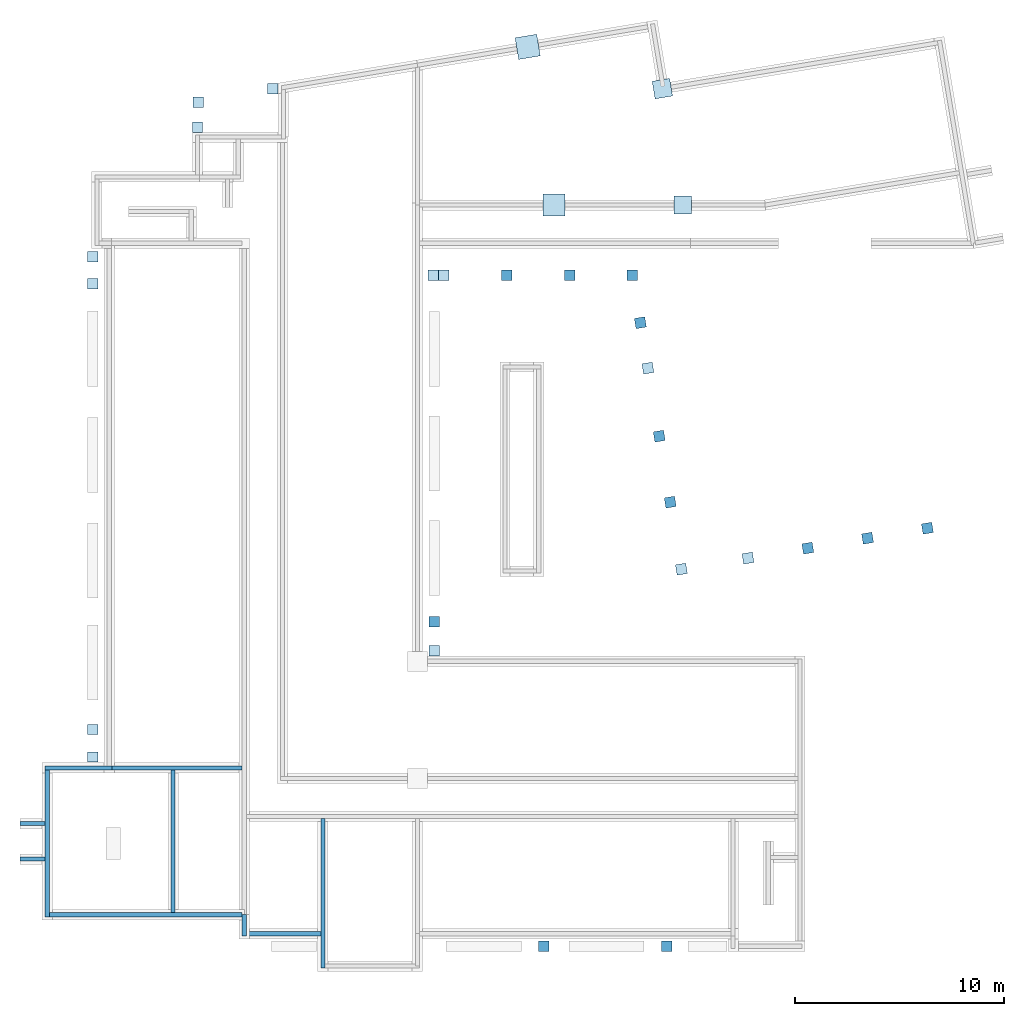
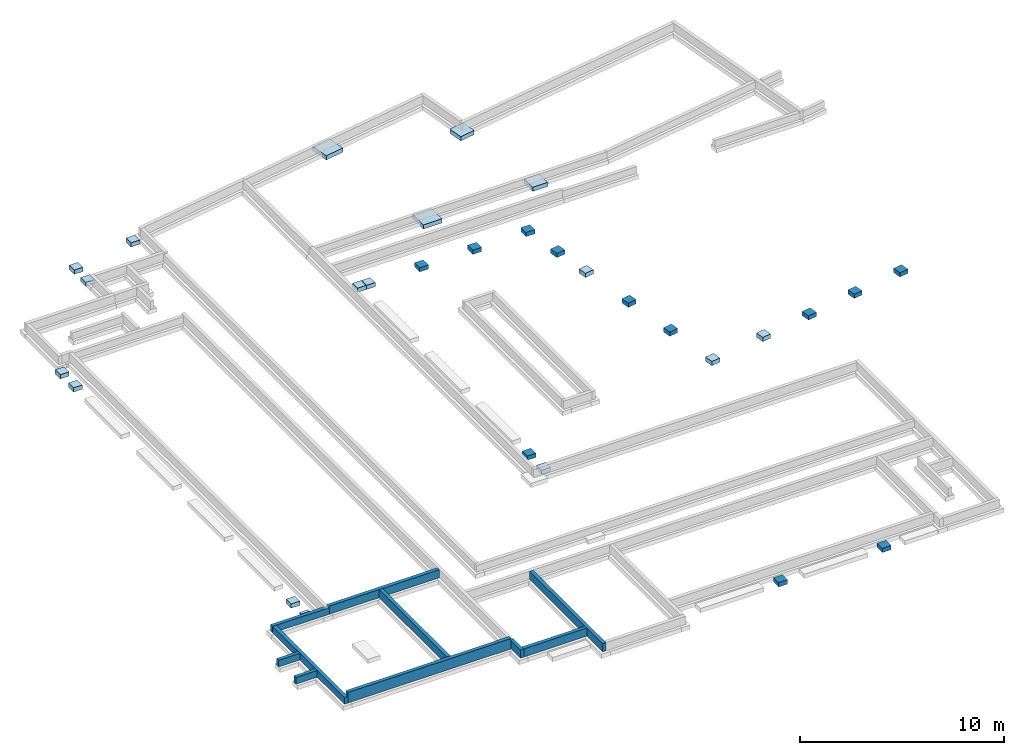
# One storey, part 3 of 5: 30 slabs, 10 walls.
"""IFC4 building model written with IfcOpenShell, lengths in metres."""

import ifcopenshell
import ifcopenshell.guid

model = None  # the IFC model being written
_history = None  # IfcOwnerHistory: only IFC2X3 demands one
_inside = {}  # id of a spatial element -> (the spatial element, [elements in it])
_under = {}  # id of a project, library or spatial element -> (it, [spatial elements below it])
_declared = {}  # id of a project -> (the project, [libraries it declares])
_typed = {}  # id of a type object -> (the type object, [elements of that type])
_made_of = {}  # id of a material, layer set ... -> (it, [elements and type objects made of it])


def new_model(schema):
    """Start an empty IFC model of exactly this schema.

    Asked for "IFC4X3", IfcOpenShell would pick the latest addendum, in which some entities
    have other attributes; the version numbers below select the first issue.
    IFC2X3 requires an IfcOwnerHistory on every rooted entity: one is made here for all.
    """
    global model, _history
    if schema == "IFC4X3":
        model = ifcopenshell.file(schema_version=(4, 3, 0, 0))
    else:
        model = ifcopenshell.file(schema=schema)
    _inside.clear()
    _under.clear()
    _declared.clear()
    _typed.clear()
    _made_of.clear()
    _history = None
    if model.schema == "IFC2X3":
        org = make("IfcOrganization", Name="unknown")
        user = make(
            "IfcPersonAndOrganization",
            ThePerson=make("IfcPerson", FamilyName="unknown"),
            TheOrganization=org,
        )
        app = make(
            "IfcApplication",
            ApplicationDeveloper=org,
            Version="unknown",
            ApplicationFullName="unknown",
            ApplicationIdentifier="unknown",
        )
        _history = make(
            "IfcOwnerHistory",
            OwningUser=user,
            OwningApplication=app,
            ChangeAction="ADDED",
            CreationDate=0,
        )
    return model


def make(cls, **values):
    """One entity of the class cls with the attributes given. An attribute that is None is left unset."""
    return model.create_entity(
        cls, **{name: value for name, value in values.items() if value is not None}
    )


def entity(cls, *values):
    """Any entity or typed value of the class cls, its attributes in the order of the schema. None: left unset."""
    e = model.create_entity(cls)
    for i, value in enumerate(values):
        if value is not None:
            e[i] = value
    return e


def rooted(cls, **values):
    """An entity with a GlobalId (a new one), such as an element, a storey or a relation."""
    return make(cls, GlobalId=ifcopenshell.guid.new(), OwnerHistory=_history, **values)


def si_unit(unit_type, name, prefix=None):
    """IfcSIUnit, for example si_unit("LENGTHUNIT", "METRE", prefix="MILLI")."""
    return make("IfcSIUnit", UnitType=unit_type, Prefix=prefix, Name=name)


def converted_unit(unit_type, name, factor, base, dimensions=None, offset=None):
    """IfcConversionBasedUnit, such as the inch: factor (a typed value) times the base unit."""
    return make(
        "IfcConversionBasedUnit"
        if offset is None
        else "IfcConversionBasedUnitWithOffset",
        ConversionOffset=offset,
        Dimensions=None
        if dimensions is None
        else entity("IfcDimensionalExponents", *dimensions),
        UnitType=unit_type,
        Name=name,
        ConversionFactor=make(
            "IfcMeasureWithUnit", ValueComponent=factor, UnitComponent=base
        ),
    )


def derived_unit(unit_type, elements):
    """IfcDerivedUnit: a product of units, each with its exponent."""
    return make(
        "IfcDerivedUnit",
        Elements=[
            make("IfcDerivedUnitElement", Unit=unit, Exponent=power)
            for unit, power in elements
        ],
        UnitType=unit_type,
    )


def assignment(units):
    """IfcUnitAssignment: the units of a project."""
    return None if units is None else make("IfcUnitAssignment", Units=units)


def point(xyz):
    """IfcCartesianPoint."""
    return None if xyz is None else make("IfcCartesianPoint", Coordinates=xyz)


def direction(xyz):
    """IfcDirection."""
    return None if xyz is None else make("IfcDirection", DirectionRatios=xyz)


def frame(location, z_axis=None, x_axis=None):
    """IfcAxis2Placement3D, a coordinate frame: its origin and axes. An axis left out is left unset."""
    return make(
        "IfcAxis2Placement3D",
        Location=point(location),
        Axis=direction(z_axis),
        RefDirection=direction(x_axis),
    )


def origin():
    """The frame at (0, 0, 0) with its axes left unset."""
    return frame((0.0, 0.0, 0.0))


def place(relative_to, where):
    """IfcLocalPlacement: puts the frame where relative to a parent placement (None: the world)."""
    return make(
        "IfcLocalPlacement", PlacementRelTo=relative_to, RelativePlacement=where
    )


def context(
    kind, dimensions, precision=None, world=None, true_north=None, identifier=None
):
    """IfcGeometricRepresentationContext, for example the 3D "Model" context."""
    return make(
        "IfcGeometricRepresentationContext",
        ContextIdentifier=identifier,
        ContextType=kind,
        CoordinateSpaceDimension=dimensions,
        Precision=precision,
        WorldCoordinateSystem=world,
        TrueNorth=true_north,
    )


def subcontext(parent, identifier, kind, view, scale=None):
    """IfcGeometricRepresentationSubContext, for example "Body" below "Model"."""
    return make(
        "IfcGeometricRepresentationSubContext",
        ContextIdentifier=identifier,
        ContextType=kind,
        ParentContext=parent,
        TargetScale=scale,
        TargetView=view,
    )


def project(units=None, contexts=None):
    """IfcProject with its units and contexts."""
    return rooted(
        "IfcProject",
        Name="project",
        RepresentationContexts=contexts,
        UnitsInContext=assignment(units),
    )


def spatial(cls, under=None, at=None, **own):
    """A site, building, storey or space (cls), placed at a placement, below another one or the project."""
    s = rooted(cls, ObjectPlacement=at, **own)
    if under is not None:
        _under.setdefault(under.id(), (under, []))[1].append(s)
    return s


def point_list(points):
    """IfcCartesianPointList2D or 3D."""
    cls = (
        "IfcCartesianPointList2D" if len(points[0]) == 2 else "IfcCartesianPointList3D"
    )
    return make(cls, CoordList=points)


def indexed_curve(points, segments=None, self_intersect=None):
    """IfcIndexedPolyCurve: lines and arcs through numbered points (the first is 1)."""
    return make(
        "IfcIndexedPolyCurve",
        Points=point_list(points),
        Segments=segments,
        SelfIntersect=self_intersect,
    )


def outline(outer, holes=None, kind="AREA"):
    """IfcArbitraryClosedProfileDef: a profile drawn as a closed curve; with holes, ...WithVoids."""
    if holes is None:
        return make("IfcArbitraryClosedProfileDef", ProfileType=kind, OuterCurve=outer)
    return make(
        "IfcArbitraryProfileDefWithVoids",
        ProfileType=kind,
        OuterCurve=outer,
        InnerCurves=holes,
    )


def extrude(swept, where, along, depth):
    """IfcExtrudedAreaSolid: the profile swept, set in the frame where, extruded along a direction by depth."""
    return make(
        "IfcExtrudedAreaSolid",
        SweptArea=swept,
        Position=where,
        ExtrudedDirection=direction(along),
        Depth=depth,
    )


def shape(context_of_items, identifier, shape_type, items):
    """IfcShapeRepresentation: the items that make up one representation, for example the "Body"."""
    return make(
        "IfcShapeRepresentation",
        ContextOfItems=context_of_items,
        RepresentationIdentifier=identifier,
        RepresentationType=shape_type,
        Items=items,
    )


def material(Name=None, Category=None):
    """IfcMaterial."""
    return make("IfcMaterial", Name=Name, Category=Category)


def made_of(thing, what):
    """Note that an element or type object is made of a material, layer set ...; save() writes the relation."""
    if what is not None:
        _made_of.setdefault(what.id(), (what, []))[1].append(thing)
    return thing


def type_object(cls, material=None, **own):
    """A type object (cls), such as IfcWallType, which elements share."""
    return made_of(rooted(cls, **own), material)


def element(
    cls,
    number,
    at=None,
    inside=None,
    cuts=None,
    type_object=None,
    material=None,
    context=None,
    identifier="Body",
    shape_type=None,
    held_by="IfcProductDefinitionShape",
    body=None,
    shapes=None,
    **own,
):
    """One element of the class cls, such as IfcWall. Its Tag is "e" and its number.

    at: its placement. inside: the storey or other place that contains it. cuts: it is an
    opening in that element (IfcRelVoidsElement). A single representation is given by context,
    identifier, shape_type and body (its items); several are given by shapes. held_by: the class
    of the entity that holds the representations. save() writes the other relations.
    """
    e = rooted(cls, Tag="e%d" % number, ObjectPlacement=at, **own)
    if body is not None:
        shapes = [shape(context, identifier, shape_type, body)]
    if shapes is not None:
        e.Representation = make(held_by, Representations=shapes)
    if inside is not None:
        _inside.setdefault(inside.id(), (inside, []))[1].append(e)
    if cuts is not None:
        rooted(
            "IfcRelVoidsElement", RelatingBuildingElement=cuts, RelatedOpeningElement=e
        )
    if type_object is not None:
        _typed.setdefault(type_object.id(), (type_object, []))[1].append(e)
    return made_of(e, material)


def aggregate(whole, parts):
    """IfcRelAggregates: a whole, such as a stair, and the parts it consists of."""
    return rooted("IfcRelAggregates", RelatingObject=whole, RelatedObjects=parts)


def save(model, path):
    """Write the relations noted so far, then the file.

    IfcRelAggregates (storeys below a building ...), IfcRelContainedInSpatialStructure (elements
    in a storey), IfcRelDefinesByType, IfcRelAssociatesMaterial and IfcRelDeclares: one each for
    every whole, place, type object, material and project.
    """
    for whole, parts in _under.values():
        aggregate(whole, parts)
    for where, things in _inside.values():
        rooted(
            "IfcRelContainedInSpatialStructure",
            RelatedElements=things,
            RelatingStructure=where,
        )
    for kind, things in _typed.values():
        rooted("IfcRelDefinesByType", RelatedObjects=things, RelatingType=kind)
    for what, things in _made_of.values():
        rooted("IfcRelAssociatesMaterial", RelatedObjects=things, RelatingMaterial=what)
    for by, libraries in _declared.values():
        rooted("IfcRelDeclares", RelatingContext=by, RelatedDefinitions=libraries)
    model.write(path)


model = new_model("IFC4")

# Units and contexts
model_context = context("Model", 3, precision=1e-05, world=origin(), true_north=direction((6.123031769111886e-17, 1.0)))
body_context = subcontext(model_context, "Body", "Model", "MODEL_VIEW")
ifc_project = project(units=[si_unit("LENGTHUNIT", "METRE"), si_unit("AREAUNIT", "SQUARE_METRE"), si_unit("VOLUMEUNIT", "CUBIC_METRE"), converted_unit("PLANEANGLEUNIT", "DEGREE", entity("IfcRatioMeasure", 0.017453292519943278), si_unit("PLANEANGLEUNIT", "RADIAN"), dimensions=[0, 0, 0, 0, 0, 0, 0]), si_unit("MASSUNIT", "GRAM", prefix="KILO"), derived_unit("MASSDENSITYUNIT", [(si_unit("MASSUNIT", "GRAM", prefix="KILO"), 1), (si_unit("LENGTHUNIT", "METRE"), -3)]), derived_unit("MOMENTOFINERTIAUNIT", [(si_unit("LENGTHUNIT", "METRE"), 4)]), si_unit("TIMEUNIT", "SECOND"), si_unit("FREQUENCYUNIT", "HERTZ"), si_unit("THERMODYNAMICTEMPERATUREUNIT", "DEGREE_CELSIUS"), derived_unit("THERMALTRANSMITTANCEUNIT", [(si_unit("MASSUNIT", "GRAM", prefix="KILO"), 1), (si_unit("THERMODYNAMICTEMPERATUREUNIT", "KELVIN"), -1), (si_unit("TIMEUNIT", "SECOND"), -3)]), derived_unit("VOLUMETRICFLOWRATEUNIT", [(si_unit("LENGTHUNIT", "METRE"), 3), (si_unit("TIMEUNIT", "SECOND"), -1)]), derived_unit("MASSFLOWRATEUNIT", [(si_unit("MASSUNIT", "GRAM", prefix="KILO"), 1), (si_unit("TIMEUNIT", "SECOND"), -1)]), derived_unit("ROTATIONALFREQUENCYUNIT", [(si_unit("TIMEUNIT", "SECOND"), -1)]), si_unit("ELECTRICCURRENTUNIT", "AMPERE"), si_unit("ELECTRICVOLTAGEUNIT", "VOLT"), si_unit("POWERUNIT", "WATT"), si_unit("FORCEUNIT", "NEWTON", prefix="KILO"), si_unit("ILLUMINANCEUNIT", "LUX"), si_unit("LUMINOUSFLUXUNIT", "LUMEN"), si_unit("LUMINOUSINTENSITYUNIT", "CANDELA"), derived_unit("USERDEFINED", [(si_unit("MASSUNIT", "GRAM", prefix="KILO"), -1), (si_unit("LENGTHUNIT", "METRE"), -2), (si_unit("TIMEUNIT", "SECOND"), 3), (si_unit("LUMINOUSFLUXUNIT", "LUMEN"), 1)]), derived_unit("SOUNDPOWERUNIT", [(si_unit("MASSUNIT", "GRAM", prefix="KILO"), 1), (si_unit("LENGTHUNIT", "METRE"), 2), (si_unit("TIMEUNIT", "SECOND"), -3)]), derived_unit("SOUNDPRESSUREUNIT", [(si_unit("MASSUNIT", "GRAM", prefix="KILO"), 1), (si_unit("LENGTHUNIT", "METRE"), -1), (si_unit("TIMEUNIT", "SECOND"), -2)]), derived_unit("LINEARVELOCITYUNIT", [(si_unit("LENGTHUNIT", "METRE"), 1), (si_unit("TIMEUNIT", "SECOND"), -1)]), si_unit("PRESSUREUNIT", "PASCAL"), derived_unit("USERDEFINED", [(si_unit("LENGTHUNIT", "METRE"), -2), (si_unit("MASSUNIT", "GRAM", prefix="KILO"), 1), (si_unit("TIMEUNIT", "SECOND"), -2)]), derived_unit("LINEARFORCEUNIT", [(si_unit("MASSUNIT", "GRAM", prefix="KILO"), 1), (si_unit("LENGTHUNIT", "METRE"), 1), (si_unit("TIMEUNIT", "SECOND"), -2), (si_unit("LENGTHUNIT", "METRE"), -1)]), derived_unit("PLANARFORCEUNIT", [(si_unit("MASSUNIT", "GRAM", prefix="KILO"), 1), (si_unit("LENGTHUNIT", "METRE"), 1), (si_unit("TIMEUNIT", "SECOND"), -2), (si_unit("LENGTHUNIT", "METRE"), -2)])], contexts=[model_context])

# Site, building, storey
site_placement = place(None, origin())
site = spatial("IfcSite", under=ifc_project, at=site_placement, Name="Default", CompositionType="ELEMENT")
building_placement = place(site_placement, origin())
building = spatial("IfcBuilding", under=site, at=building_placement, CompositionType="ELEMENT")
storey_placement = place(building_placement, frame((0.0, 0.0, -0.88)))
storey = spatial("IfcBuildingStorey", under=building, at=storey_placement, Name="Arase inf soubassement", CompositionType="ELEMENT", Elevation=-0.88)

# Slabs
slab_type_1 = type_object("IfcSlabType", Name="SI 01:SI 01", PredefinedType="BASESLAB")
slab_1_placement = place(storey_placement, origin())
element("IfcSlab", 1, at=slab_1_placement, inside=storey, type_object=slab_type_1, Name="SI 01:SI 01", ObjectType="SI 01:SI 01", PredefinedType="BASESLAB", context=body_context, shape_type="SweptSolid", body=[
    extrude(outline(indexed_curve([(-0.4250000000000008, -0.4250000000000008), (0.4250000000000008, -0.4250000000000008), (0.4250000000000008, 0.42499999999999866), (-0.4250000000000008, 0.42499999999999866), (-0.4250000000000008, -0.4250000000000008)], self_intersect=False)), frame((1.4343879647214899, 12.519106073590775, 0.0), z_axis=(0.0, 0.0, 1.0), x_axis=(-1.0, 0.0, 0.0)), (0.0, 0.0, 1.0), 0.25),
])
slab_type_2 = type_object("IfcSlabType", Name="SI 1:SI 01", PredefinedType="BASESLAB")
slab_2_placement = place(storey_placement, origin())
element("IfcSlab", 2, at=slab_2_placement, inside=storey, type_object=slab_type_2, Name="SI 1:SI 01", ObjectType="SI 1:SI 01", PredefinedType="BASESLAB", context=body_context, shape_type="SweptSolid", body=[
    extrude(outline(indexed_curve([(-0.42500000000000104, -0.42499999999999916), (0.42500000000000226, -0.42499999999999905), (0.4250000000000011, 0.4250000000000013), (-0.42500000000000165, 0.4250000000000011), (-0.42500000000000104, -0.42499999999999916)], self_intersect=False)), frame((0.46236596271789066, 18.087873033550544, 0.0), z_axis=(0.0, 0.0, 1.0), x_axis=(-0.9864292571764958, -0.16418684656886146, 0.0)), (0.0, 0.0, 1.0), 0.24999999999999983),
])
slab_type_3 = type_object("IfcSlabType", Name="SI 03:SI 03", PredefinedType="BASESLAB")
slab_3_placement = place(storey_placement, origin())
element("IfcSlab", 3, at=slab_3_placement, inside=storey, type_object=slab_type_3, Name="SI 03:SI 03", ObjectType="SI 03:SI 03", PredefinedType="BASESLAB", context=body_context, shape_type="SweptSolid", body=[
    extrude(outline(indexed_curve([(-0.5250000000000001, -0.5250000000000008), (0.5249999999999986, -0.5250000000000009), (0.5249999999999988, 0.5249999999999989), (-0.5250000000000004, 0.5249999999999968), (-0.5250000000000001, -0.5250000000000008)], self_intersect=False)), frame((-5.9788371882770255, 20.087447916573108, 0.0), z_axis=(0.0, 0.0, 1.0), x_axis=(-0.9864292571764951, -0.16418684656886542, 0.0)), (0.0, 0.0, 1.0), 0.2499999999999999),
])
slab_type_4 = type_object("IfcSlabType", Name="SI 5:SI 03", PredefinedType="BASESLAB")
slab_4_placement = place(storey_placement, origin())
element("IfcSlab", 4, at=slab_4_placement, inside=storey, type_object=slab_type_4, Name="SI 5:SI 03", ObjectType="SI 5:SI 03", PredefinedType="BASESLAB", context=body_context, shape_type="SweptSolid", body=[
    extrude(outline(indexed_curve([(-0.5249999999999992, -0.5250000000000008), (0.5250000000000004, -0.5250000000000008), (0.5249999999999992, 0.5249999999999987), (-0.5250000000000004, 0.5249999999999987), (-0.5249999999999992, -0.5250000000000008)], self_intersect=False)), frame((-4.71911970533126, 12.519106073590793, 0.0), z_axis=(0.0, 0.0, 1.0), x_axis=(-1.0, 0.0, 0.0)), (0.0, 0.0, 1.0), 0.25),
])
slab_type_5 = type_object("IfcSlabType", Name="SI 6:SI 05", PredefinedType="BASESLAB")
slab_5_placement = place(storey_placement, origin())
element("IfcSlab", 5, at=slab_5_placement, inside=storey, type_object=slab_type_5, Name="SI 6:SI 05", ObjectType="SI 6:SI 05", PredefinedType="BASESLAB", context=body_context, shape_type="SweptSolid", body=[
    extrude(outline(indexed_curve([(-0.24999999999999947, -0.24999999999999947), (0.24999999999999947, -0.24999999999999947), (0.24999999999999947, 0.24999999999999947), (-0.24999999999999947, 0.24999999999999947), (-0.24999999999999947, -0.24999999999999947)], self_intersect=False)), frame((-5.203450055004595, -22.930893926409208, 0.0), z_axis=(0.0, 0.0, 1.0), x_axis=(-1.0, 0.0, 0.0)), (0.0, 0.0, 1.0), 0.25),
])
slab_type_6 = type_object("IfcSlabType", Name="SI 7:SI 05", PredefinedType="BASESLAB")
slab_6_placement = place(storey_placement, origin())
element("IfcSlab", 6, at=slab_6_placement, inside=storey, type_object=slab_type_6, Name="SI 7:SI 05", ObjectType="SI 7:SI 05", PredefinedType="BASESLAB", context=body_context, shape_type="SweptSolid", body=[
    extrude(outline(indexed_curve([(-0.24999999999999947, -0.24999999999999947), (0.24999999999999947, -0.24999999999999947), (0.24999999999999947, 0.25000000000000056), (-0.24999999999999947, 0.25000000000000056), (-0.24999999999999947, -0.24999999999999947)], self_intersect=False)), frame((-10.453450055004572, -8.805893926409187, 0.0), z_axis=(0.0, 0.0, 1.0), x_axis=(-1.0, 0.0, 0.0)), (0.0, 0.0, 1.0), 0.25),
])
slab_type_7 = type_object("IfcSlabType", Name="SI 8:SI 05", PredefinedType="BASESLAB")
slab_7_placement = place(storey_placement, origin())
element("IfcSlab", 7, at=slab_7_placement, inside=storey, type_object=slab_type_7, Name="SI 8:SI 05", ObjectType="SI 8:SI 05", PredefinedType="BASESLAB", context=body_context, shape_type="SweptSolid", body=[
    extrude(outline(indexed_curve([(-0.24999999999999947, -0.24999999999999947), (0.24999999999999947, -0.24999999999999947), (0.24999999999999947, 0.24999999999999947), (-0.24999999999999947, 0.24999999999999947), (-0.24999999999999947, -0.24999999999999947)], self_intersect=False)), frame((0.6665499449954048, -22.930893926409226, 0.0), z_axis=(0.0, 0.0, 1.0), x_axis=(-1.0, 0.0, 0.0)), (0.0, 0.0, 1.0), 0.25),
])
slab_type_8 = type_object("IfcSlabType", Name="SI 9:SI 05", PredefinedType="BASESLAB")
slab_8_placement = place(storey_placement, origin())
element("IfcSlab", 8, at=slab_8_placement, inside=storey, type_object=slab_type_8, Name="SI 9:SI 05", ObjectType="SI 9:SI 05", PredefinedType="BASESLAB", context=body_context, shape_type="SweptSolid", body=[
    extrude(outline(indexed_curve([(-0.24999999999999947, -0.24999999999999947), (0.24999999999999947, -0.24999999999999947), (0.24999999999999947, 0.24999999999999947), (-0.24999999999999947, 0.24999999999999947), (-0.24999999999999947, -0.24999999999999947)], self_intersect=False)), frame((0.6665499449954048, -22.930893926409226, 0.0), z_axis=(0.0, 0.0, 1.0), x_axis=(-1.0, 0.0, 0.0)), (0.0, 0.0, 1.0), 0.25),
])
slab_type_9 = type_object("IfcSlabType", Name="SI 10:SI 05", PredefinedType="BASESLAB")
slab_9_placement = place(storey_placement, origin())
element("IfcSlab", 9, at=slab_9_placement, inside=storey, type_object=slab_type_9, Name="SI 10:SI 05", ObjectType="SI 10:SI 05", PredefinedType="BASESLAB", context=body_context, shape_type="SweptSolid", body=[
    extrude(outline(indexed_curve([(-0.24999999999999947, -0.24926147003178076), (0.24999999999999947, -0.24926147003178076), (0.24999999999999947, 0.24926147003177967), (-0.24999999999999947, 0.24926147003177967), (-0.24999999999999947, -0.24926147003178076)], self_intersect=False)), frame((-10.453450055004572, -7.4051553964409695, 0.0), z_axis=(0.0, 0.0, 1.0), x_axis=(-1.0, 0.0, 0.0)), (0.0, 0.0, 1.0), 0.25),
])
slab_type_10 = type_object("IfcSlabType", Name="SI 11:SI 05", PredefinedType="BASESLAB")
slab_10_placement = place(storey_placement, origin())
element("IfcSlab", 10, at=slab_10_placement, inside=storey, type_object=slab_type_10, Name="SI 11:SI 05", ObjectType="SI 11:SI 05", PredefinedType="BASESLAB", context=body_context, shape_type="SweptSolid", body=[
    extrude(outline(indexed_curve([(-0.24999999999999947, -0.25000000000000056), (0.24999999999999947, -0.25000000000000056), (0.24999999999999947, 0.24999999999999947), (-0.24999999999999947, 0.24999999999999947), (-0.24999999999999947, -0.25000000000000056)], self_intersect=False)), frame((-10.493450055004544, 9.169106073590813, 0.0), z_axis=(0.0, 0.0, 1.0), x_axis=(-1.0, 0.0, 0.0)), (0.0, 0.0, 1.0), 0.25),
])
slab_type_11 = type_object("IfcSlabType", Name="SI 12:SI 05", PredefinedType="BASESLAB")
slab_11_placement = place(storey_placement, origin())
element("IfcSlab", 11, at=slab_11_placement, inside=storey, type_object=slab_type_11, Name="SI 12:SI 05", ObjectType="SI 12:SI 05", PredefinedType="BASESLAB", context=body_context, shape_type="SweptSolid", body=[
    extrude(outline(indexed_curve([(-0.24999999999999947, -0.25000000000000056), (0.24999999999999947, -0.25000000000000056), (0.24999999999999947, 0.24999999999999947), (-0.24999999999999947, 0.24999999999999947), (-0.24999999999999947, -0.25000000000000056)], self_intersect=False)), frame((-9.983450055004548, 9.159106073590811, 0.0), z_axis=(0.0, 0.0, 1.0), x_axis=(-1.0, 0.0, 0.0)), (0.0, 0.0, 1.0), 0.25),
])
slab_type_12 = type_object("IfcSlabType", Name="SI 13:SI 05", PredefinedType="BASESLAB")
slab_12_placement = place(storey_placement, origin())
element("IfcSlab", 12, at=slab_12_placement, inside=storey, type_object=slab_type_12, Name="SI 13:SI 05", ObjectType="SI 13:SI 05", PredefinedType="BASESLAB", context=body_context, shape_type="SweptSolid", body=[
    extrude(outline(indexed_curve([(-0.24999999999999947, -0.25000000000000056), (0.24999999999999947, -0.25000000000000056), (0.24999999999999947, 0.24999999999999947), (-0.24999999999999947, 0.24999999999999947), (-0.24999999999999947, -0.25000000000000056)], self_intersect=False)), frame((-6.983450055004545, 9.159106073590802, 0.0), z_axis=(0.0, 0.0, 1.0), x_axis=(-1.0, 0.0, 0.0)), (0.0, 0.0, 1.0), 0.25),
])
slab_type_13 = type_object("IfcSlabType", Name="SI 14:SI 05", PredefinedType="BASESLAB")
slab_13_placement = place(storey_placement, origin())
element("IfcSlab", 13, at=slab_13_placement, inside=storey, type_object=slab_type_13, Name="SI 14:SI 05", ObjectType="SI 14:SI 05", PredefinedType="BASESLAB", context=body_context, shape_type="SweptSolid", body=[
    extrude(outline(indexed_curve([(-0.24999999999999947, -0.25000000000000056), (0.24999999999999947, -0.25000000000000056), (0.24999999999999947, 0.24999999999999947), (-0.24999999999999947, 0.24999999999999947), (-0.24999999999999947, -0.25000000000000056)], self_intersect=False)), frame((-3.9734500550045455, 9.159106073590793, 0.0), z_axis=(0.0, 0.0, 1.0), x_axis=(-1.0, 0.0, 0.0)), (0.0, 0.0, 1.0), 0.25),
])
slab_type_14 = type_object("IfcSlabType", Name="SI 15:SI 05", PredefinedType="BASESLAB")
slab_14_placement = place(storey_placement, origin())
element("IfcSlab", 14, at=slab_14_placement, inside=storey, type_object=slab_type_14, Name="SI 15:SI 05", ObjectType="SI 15:SI 05", PredefinedType="BASESLAB", context=body_context, shape_type="SweptSolid", body=[
    extrude(outline(indexed_curve([(-0.24999999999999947, -0.25000000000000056), (0.24999999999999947, -0.25000000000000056), (0.24999999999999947, 0.24999999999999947), (-0.24999999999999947, 0.24999999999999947), (-0.24999999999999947, -0.25000000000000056)], self_intersect=False)), frame((-0.9665264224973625, 9.159106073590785, 0.0), z_axis=(0.0, 0.0, 1.0), x_axis=(-1.0, 0.0, 0.0)), (0.0, 0.0, 1.0), 0.25),
])
slab_type_15 = type_object("IfcSlabType", Name="SI 16:SI 05", PredefinedType="BASESLAB")
slab_15_placement = place(storey_placement, origin())
element("IfcSlab", 15, at=slab_15_placement, inside=storey, type_object=slab_type_15, Name="SI 16:SI 05", ObjectType="SI 16:SI 05", PredefinedType="BASESLAB", context=body_context, shape_type="SweptSolid", body=[
    extrude(outline(indexed_curve([(-0.24999999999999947, -0.24999999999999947), (0.24999999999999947, -0.24999999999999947), (0.24999999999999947, 0.24999999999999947), (-0.24999999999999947, 0.24999999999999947), (-0.24999999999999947, -0.24999999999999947)], self_intersect=False)), frame((-21.773450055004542, 16.25210607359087, 0.0), z_axis=(0.0, 0.0, 1.0), x_axis=(-1.0, 0.0, 0.0)), (0.0, 0.0, 1.0), 0.25),
])
slab_type_16 = type_object("IfcSlabType", Name="SI 17:SI 05", PredefinedType="BASESLAB")
slab_16_placement = place(storey_placement, origin())
element("IfcSlab", 16, at=slab_16_placement, inside=storey, type_object=slab_type_16, Name="SI 17:SI 05", ObjectType="SI 17:SI 05", PredefinedType="BASESLAB", context=body_context, shape_type="SweptSolid", body=[
    extrude(outline(indexed_curve([(-0.24999999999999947, -0.24999999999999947), (0.24999999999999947, -0.24999999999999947), (0.24999999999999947, 0.24999999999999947), (-0.24999999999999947, 0.24999999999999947), (-0.24999999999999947, -0.24999999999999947)], self_intersect=False)), frame((-21.733450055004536, 17.445106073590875, 0.0), z_axis=(0.0, 0.0, 1.0), x_axis=(-1.0, 0.0, 0.0)), (0.0, 0.0, 1.0), 0.25),
])
slab_type_17 = type_object("IfcSlabType", Name="SI 18:SI 05", PredefinedType="BASESLAB")
slab_17_placement = place(storey_placement, origin())
element("IfcSlab", 17, at=slab_17_placement, inside=storey, type_object=slab_type_17, Name="SI 18:SI 05", ObjectType="SI 18:SI 05", PredefinedType="BASESLAB", context=body_context, shape_type="SweptSolid", body=[
    extrude(outline(indexed_curve([(-0.25000000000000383, -0.24999999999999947), (0.24999999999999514, -0.24999999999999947), (0.24999999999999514, 0.24999999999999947), (-0.25000000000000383, 0.24999999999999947), (-0.25000000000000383, -0.24999999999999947)], self_intersect=False)), frame((-26.793450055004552, 10.05410607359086, 0.0), z_axis=(0.0, 0.0, 1.0), x_axis=(-1.0, 0.0, 0.0)), (0.0, 0.0, 1.0), 0.25),
])
slab_type_18 = type_object("IfcSlabType", Name="SI 19:SI 05", PredefinedType="BASESLAB")
slab_18_placement = place(storey_placement, origin())
element("IfcSlab", 18, at=slab_18_placement, inside=storey, type_object=slab_type_18, Name="SI 19:SI 05", ObjectType="SI 19:SI 05", PredefinedType="BASESLAB", context=body_context, shape_type="SweptSolid", body=[
    extrude(outline(indexed_curve([(-0.25000000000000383, -0.25000000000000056), (0.24999999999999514, -0.25000000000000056), (0.24999999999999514, 0.24999999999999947), (-0.25000000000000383, 0.24999999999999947), (-0.25000000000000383, -0.25000000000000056)], self_intersect=False)), frame((-26.793450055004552, 8.754106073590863, 0.0), z_axis=(0.0, 0.0, 1.0), x_axis=(-1.0, 0.0, 0.0)), (0.0, 0.0, 1.0), 0.25),
])
slab_type_19 = type_object("IfcSlabType", Name="SI 20:SI 05", PredefinedType="BASESLAB")
slab_19_placement = place(storey_placement, origin())
element("IfcSlab", 19, at=slab_19_placement, inside=storey, type_object=slab_type_19, Name="SI 20:SI 05", ObjectType="SI 20:SI 05", PredefinedType="BASESLAB", context=body_context, shape_type="SweptSolid", body=[
    extrude(outline(indexed_curve([(-0.25000000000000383, -0.24999999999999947), (0.24999999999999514, -0.24999999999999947), (0.24999999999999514, 0.24999999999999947), (-0.25000000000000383, 0.24999999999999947), (-0.25000000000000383, -0.24999999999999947)], self_intersect=False)), frame((-26.793450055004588, -12.565893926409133, 0.0), z_axis=(0.0, 0.0, 1.0), x_axis=(-1.0, 0.0, 0.0)), (0.0, 0.0, 1.0), 0.25),
])
slab_type_20 = type_object("IfcSlabType", Name="SI 22:SI 05", PredefinedType="BASESLAB")
slab_20_placement = place(storey_placement, origin())
element("IfcSlab", 20, at=slab_20_placement, inside=storey, type_object=slab_type_20, Name="SI 22:SI 05", ObjectType="SI 22:SI 05", PredefinedType="BASESLAB", context=body_context, shape_type="SweptSolid", body=[
    extrude(outline(indexed_curve([(-0.25000000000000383, -0.25000000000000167), (0.24999999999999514, -0.25000000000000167), (0.24999999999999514, 0.24999999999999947), (-0.25000000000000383, 0.24999999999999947), (-0.25000000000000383, -0.25000000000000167)], self_intersect=False)), frame((-26.793450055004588, -13.880893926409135, 0.0), z_axis=(0.0, 0.0, 1.0), x_axis=(-1.0, 0.0, 0.0)), (0.0, 0.0, 1.0), 0.25),
])
slab_type_21 = type_object("IfcSlabType", Name="SI 23:SI 05", PredefinedType="BASESLAB")
slab_21_placement = place(storey_placement, origin())
element("IfcSlab", 21, at=slab_21_placement, inside=storey, type_object=slab_type_21, Name="SI 23:SI 05", ObjectType="SI 23:SI 05", PredefinedType="BASESLAB", context=body_context, shape_type="SweptSolid", body=[
    extrude(outline(indexed_curve([(-0.24999999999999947, -0.24999999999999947), (0.24999999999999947, -0.24999999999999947), (0.24999999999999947, 0.24999999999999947), (-0.24999999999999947, 0.24999999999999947), (-0.24999999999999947, -0.24999999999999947)], self_intersect=False)), frame((-18.163450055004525, 18.07268791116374, 0.0), z_axis=(0.0, 0.0, 1.0), x_axis=(-1.0, 0.0, 0.0)), (0.0, 0.0, 1.0), 0.25),
])
slab_type_22 = type_object("IfcSlabType", Name="SI 24:SI 05", PredefinedType="BASESLAB")
slab_22_placement = place(storey_placement, origin())
element("IfcSlab", 22, at=slab_22_placement, inside=storey, type_object=slab_type_22, Name="SI 24:SI 05", ObjectType="SI 24:SI 05", PredefinedType="BASESLAB", context=body_context, shape_type="SweptSolid", body=[
    extrude(outline(indexed_curve([(-0.2499999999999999, -0.25000000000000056), (0.24999999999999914, -0.2500000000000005), (0.24999999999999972, 0.24999999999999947), (-0.2499999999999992, 0.24999999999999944), (-0.2499999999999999, -0.25000000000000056)], self_intersect=False)), frame((-0.5888966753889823, 6.890318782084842, 0.0), z_axis=(0.0, 0.0, 1.0), x_axis=(-0.9864292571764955, -0.1641868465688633, 0.0)), (0.0, 0.0, 1.0), 0.25),
])
slab_type_23 = type_object("IfcSlabType", Name="SI 25:SI 05", PredefinedType="BASESLAB")
slab_23_placement = place(storey_placement, origin())
element("IfcSlab", 23, at=slab_23_placement, inside=storey, type_object=slab_type_23, Name="SI 25:SI 05", ObjectType="SI 25:SI 05", PredefinedType="BASESLAB", context=body_context, shape_type="SweptSolid", body=[
    extrude(outline(indexed_curve([(-0.24999999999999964, -0.25), (0.2499999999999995, -0.25000000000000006), (0.24999999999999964, 0.25), (-0.2499999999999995, 0.25000000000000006), (-0.24999999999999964, -0.25)], self_intersect=False)), frame((-0.22768561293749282, 4.720174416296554, 0.0), z_axis=(0.0, 0.0, 1.0), x_axis=(-0.9864292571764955, -0.16418684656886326, 0.0)), (0.0, 0.0, 1.0), 0.2499999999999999),
])
slab_type_24 = type_object("IfcSlabType", Name="SI 26:SI 05", PredefinedType="BASESLAB")
slab_24_placement = place(storey_placement, origin())
element("IfcSlab", 24, at=slab_24_placement, inside=storey, type_object=slab_type_24, Name="SI 26:SI 05", ObjectType="SI 26:SI 05", PredefinedType="BASESLAB", context=body_context, shape_type="SweptSolid", body=[
    extrude(outline(indexed_curve([(-0.24999999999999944, -0.25000000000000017), (0.24999999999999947, -0.25000000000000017), (0.24999999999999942, 0.25), (-0.2499999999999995, 0.2499999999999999), (-0.24999999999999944, -0.25000000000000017)], self_intersect=False)), frame((0.31413098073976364, 1.464957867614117, 0.0), z_axis=(0.0, 0.0, 1.0), x_axis=(-0.9864292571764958, -0.16418684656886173, 0.0)), (0.0, 0.0, 1.0), 0.24999999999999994),
])
slab_type_25 = type_object("IfcSlabType", Name="SI 27:SI 05", PredefinedType="BASESLAB")
slab_25_placement = place(storey_placement, origin())
element("IfcSlab", 25, at=slab_25_placement, inside=storey, type_object=slab_type_25, Name="SI 27:SI 05", ObjectType="SI 27:SI 05", PredefinedType="BASESLAB", context=body_context, shape_type="SweptSolid", body=[
    extrude(outline(indexed_curve([(-0.24999999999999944, -0.24999999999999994), (0.24999999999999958, -0.24999999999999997), (0.2499999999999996, 0.2500000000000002), (-0.24999999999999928, 0.2500000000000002), (-0.24999999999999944, -0.24999999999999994)], self_intersect=False)), frame((0.8395288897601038, -1.6916157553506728, 0.0), z_axis=(0.0, 0.0, 1.0), x_axis=(-0.9864292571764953, -0.16418684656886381, 0.0)), (0.0, 0.0, 1.0), 0.2499999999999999),
])
slab_type_26 = type_object("IfcSlabType", Name="SI 28:SI 05", PredefinedType="BASESLAB")
slab_26_placement = place(storey_placement, origin())
element("IfcSlab", 26, at=slab_26_placement, inside=storey, type_object=slab_type_26, Name="SI 28:SI 05", ObjectType="SI 28:SI 05", PredefinedType="BASESLAB", context=body_context, shape_type="SweptSolid", body=[
    extrude(outline(indexed_curve([(-0.24999999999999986, -0.25000000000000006), (0.2499999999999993, -0.25), (0.2499999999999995, 0.24999999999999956), (-0.24999999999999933, 0.25000000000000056), (-0.24999999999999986, -0.25000000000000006)], self_intersect=False)), frame((1.3731361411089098, -4.897510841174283, 0.0), z_axis=(0.0, 0.0, 1.0), x_axis=(-0.9864292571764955, -0.16418684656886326, 0.0)), (0.0, 0.0, 1.0), 0.24999999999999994),
])
slab_type_27 = type_object("IfcSlabType", Name="SI 29:SI 05", PredefinedType="BASESLAB")
slab_27_placement = place(storey_placement, origin())
element("IfcSlab", 27, at=slab_27_placement, inside=storey, type_object=slab_type_27, Name="SI 29:SI 05", ObjectType="SI 29:SI 05", PredefinedType="BASESLAB", context=body_context, shape_type="SweptSolid", body=[
    extrude(outline(indexed_curve([(-0.2499999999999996, -0.25000000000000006), (0.24999999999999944, -0.25000000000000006), (0.2499999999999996, 0.25000000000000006), (-0.24999999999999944, 0.25000000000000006), (-0.2499999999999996, -0.25000000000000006)], self_intersect=False)), frame((4.5593026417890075, -4.367187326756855, 0.0), z_axis=(0.0, 0.0, 1.0), x_axis=(-0.9864292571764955, -0.1641868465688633, 0.0)), (0.0, 0.0, 1.0), 0.2499999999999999),
])
slab_type_28 = type_object("IfcSlabType", Name="SI 30:SI 05", PredefinedType="BASESLAB")
slab_28_placement = place(storey_placement, origin())
element("IfcSlab", 28, at=slab_28_placement, inside=storey, type_object=slab_type_28, Name="SI 30:SI 05", ObjectType="SI 30:SI 05", PredefinedType="BASESLAB", context=body_context, shape_type="SweptSolid", body=[
    extrude(outline(indexed_curve([(-0.24999999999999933, -0.25000000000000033), (0.2499999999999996, -0.25000000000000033), (0.24999999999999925, 0.24999999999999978), (-0.2499999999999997, 0.24999999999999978), (-0.24999999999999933, -0.25000000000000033)], self_intersect=False)), frame((7.419947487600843, -3.8910454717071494, 0.0), z_axis=(0.0, 0.0, 1.0), x_axis=(-0.9864292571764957, -0.16418684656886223, 0.0)), (0.0, 0.0, 1.0), 0.25),
])
slab_type_29 = type_object("IfcSlabType", Name="SI 31:SI 05", PredefinedType="BASESLAB")
slab_29_placement = place(storey_placement, origin())
element("IfcSlab", 29, at=slab_29_placement, inside=storey, type_object=slab_type_29, Name="SI 31:SI 05", ObjectType="SI 31:SI 05", PredefinedType="BASESLAB", context=body_context, shape_type="SweptSolid", body=[
    extrude(outline(indexed_curve([(-0.24999999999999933, -0.25000000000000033), (0.2499999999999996, -0.25000000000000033), (0.24999999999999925, 0.24999999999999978), (-0.2499999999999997, 0.24999999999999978), (-0.24999999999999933, -0.25000000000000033)], self_intersect=False)), frame((10.28059233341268, -3.4149036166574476, 0.0), z_axis=(0.0, 0.0, 1.0), x_axis=(-0.9864292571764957, -0.16418684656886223, 0.0)), (0.0, 0.0, 1.0), 0.25),
])
slab_type_30 = type_object("IfcSlabType", Name="SI 32:SI 05", PredefinedType="BASESLAB")
slab_30_placement = place(storey_placement, origin())
element("IfcSlab", 30, at=slab_30_placement, inside=storey, type_object=slab_type_30, Name="SI 32:SI 05", ObjectType="SI 32:SI 05", PredefinedType="BASESLAB", context=body_context, shape_type="SweptSolid", body=[
    extrude(outline(indexed_curve([(-0.24999999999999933, -0.25000000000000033), (0.2499999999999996, -0.25000000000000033), (0.24999999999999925, 0.24999999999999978), (-0.2499999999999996, 0.25000000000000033), (-0.24999999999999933, -0.25000000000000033)], self_intersect=False)), frame((13.141237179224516, -2.9387617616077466, 0.0), z_axis=(0.0, 0.0, 1.0), x_axis=(-0.9864292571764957, -0.16418684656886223, 0.0)), (0.0, 0.0, 1.0), 0.2499999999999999),
])

# Walls
ifc_material = material(Name="Mur par défaut", Category="Divers")
wall_type_1 = type_object("IfcWallType", Name="Mur de base:Libages blocs pleins", PredefinedType="STANDARD")
wall_1_placement = place(storey_placement, frame((-25.863450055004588, -14.405893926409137, 0.25), z_axis=(0.0, 0.0, 1.0), x_axis=(-1.0, 0.0, 0.0)))
element("IfcWall", 31, at=wall_1_placement, inside=storey, type_object=wall_type_1, material=ifc_material, Name="Mur de base:Libages blocs pleins", ObjectType="Mur de base:Libages blocs pleins", PredefinedType="NOTDEFINED", context=body_context, shape_type="SweptSolid", body=[
    extrude(outline(indexed_curve([(3.1999999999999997, 0.0999999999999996), (-2.916813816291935e-16, 0.09999999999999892), (2.916813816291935e-16, -0.09999999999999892), (3.2000000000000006, -0.09999999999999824), (3.1999999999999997, 0.0999999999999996)], self_intersect=False)), origin(), (0.0, 0.0, 1.0), 0.4),
])
wall_2_placement = place(storey_placement, frame((-28.96345005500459, -14.505893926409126, 0.25), z_axis=(0.0, 0.0, 1.0), x_axis=(0.0, -1.0, 0.0)))
element("IfcWall", 32, at=wall_2_placement, inside=storey, type_object=wall_type_1, material=ifc_material, Name="Mur de base:Libages blocs pleins", ObjectType="Mur de base:Libages blocs pleins", PredefinedType="NOTDEFINED", context=body_context, shape_type="SweptSolid", body=[
    extrude(outline(indexed_curve([(7.020000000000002, 0.09999999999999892), (-1.8510549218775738e-16, 0.09999999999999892), (1.8510549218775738e-16, -0.09999999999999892), (7.020000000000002, -0.09999999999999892), (7.020000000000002, 0.09999999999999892)], self_intersect=False)), origin(), (0.0, 0.0, 1.0), 0.4),
])
wall_3_placement = place(storey_placement, frame((-28.863450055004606, -21.42589392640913, 0.25)))
element("IfcWall", 33, at=wall_3_placement, inside=storey, type_object=wall_type_1, material=ifc_material, Name="Mur de base:Libages blocs pleins", ObjectType="Mur de base:Libages blocs pleins", PredefinedType="NOTDEFINED", context=body_context, shape_type="SweptSolid", body=[
    extrude(outline(indexed_curve([(9.230000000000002, 0.09999999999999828), (-3.2153000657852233e-16, 0.09999999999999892), (3.2153000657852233e-16, -0.09999999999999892), (9.230000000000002, -0.09999999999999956), (9.230000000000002, 0.09999999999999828)], self_intersect=False)), origin(), (0.0, 0.0, 1.0), 0.6300000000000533),
])
wall_4_placement = place(storey_placement, frame((-19.5334500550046, -21.42589392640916, 0.25), z_axis=(0.0, 0.0, 1.0), x_axis=(0.0, -1.0, 0.0)))
element("IfcWall", 34, at=wall_4_placement, inside=storey, type_object=wall_type_1, material=ifc_material, Name="Mur de base:Libages blocs pleins", ObjectType="Mur de base:Libages blocs pleins", PredefinedType="NOTDEFINED", context=body_context, shape_type="SweptSolid", body=[
    extrude(outline(indexed_curve([(1.0100000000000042, 0.09999999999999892), (0.0, 0.09999999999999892), (0.0, -0.09999999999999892), (1.0100000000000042, -0.09999999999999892), (1.0100000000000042, 0.09999999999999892)], self_intersect=False)), origin(), (0.0, 0.0, 1.0), 0.4899999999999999),
])
wall_5_placement = place(storey_placement, frame((-19.4334500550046, -22.33589392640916, 0.25)))
element("IfcWall", 35, at=wall_5_placement, inside=storey, type_object=wall_type_1, material=ifc_material, Name="Mur de base:Libages blocs pleins", ObjectType="Mur de base:Libages blocs pleins", PredefinedType="NOTDEFINED", context=body_context, shape_type="SweptSolid", body=[
    extrude(outline(indexed_curve([(3.5600000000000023, 0.09999999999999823), (-3.455958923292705e-16, 0.09999999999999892), (3.455958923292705e-16, -0.09999999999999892), (3.5600000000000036, -0.09999999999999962), (3.5600000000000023, 0.09999999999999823)], self_intersect=False)), origin(), (0.0, 0.0, 1.0), 0.4899999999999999),
])
wall_type_2 = type_object("IfcWallType", Name="Mur de base:Libages BA", PredefinedType="STANDARD")
wall_6_placement = place(storey_placement, frame((-29.063450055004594, -17.065893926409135, 0.25), z_axis=(0.0, 0.0, 1.0), x_axis=(-1.0, 0.0, 0.0)))
element("IfcWall", 36, at=wall_6_placement, inside=storey, type_object=wall_type_2, material=ifc_material, Name="Mur de base:Libages BA", ObjectType="Mur de base:Libages BA", PredefinedType="NOTDEFINED", context=body_context, shape_type="SweptSolid", body=[
    extrude(outline(indexed_curve([(1.1999999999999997, 0.09999999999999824), (-3.051764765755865e-16, 0.09999999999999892), (3.051764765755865e-16, -0.09999999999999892), (1.2000000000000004, -0.0999999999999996), (1.1999999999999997, 0.09999999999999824)], self_intersect=False)), origin(), (0.0, 0.0, 1.0), 0.4),
])
wall_7_placement = place(storey_placement, frame((-29.063450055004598, -18.76589392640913, 0.25), z_axis=(0.0, 0.0, 1.0), x_axis=(-1.0, 0.0, 0.0)))
element("IfcWall", 37, at=wall_7_placement, inside=storey, type_object=wall_type_2, material=ifc_material, Name="Mur de base:Libages BA", ObjectType="Mur de base:Libages BA", PredefinedType="NOTDEFINED", context=body_context, shape_type="SweptSolid", body=[
    extrude(outline(indexed_curve([(1.1999999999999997, 0.0999999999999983), (-3.093906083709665e-16, 0.09999999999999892), (3.093906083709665e-16, -0.09999999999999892), (1.2000000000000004, -0.09999999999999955), (1.1999999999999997, 0.0999999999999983)], self_intersect=False)), origin(), (0.0, 0.0, 1.0), 0.4),
])
wall_8_placement = place(storey_placement, frame((-25.893450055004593, -14.405893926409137, 0.25)))
element("IfcWall", 38, at=wall_8_placement, inside=storey, type_object=wall_type_2, material=ifc_material, Name="Mur de base:Libages BA", ObjectType="Mur de base:Libages BA", PredefinedType="NOTDEFINED", context=body_context, shape_type="SweptSolid", body=[
    extrude(outline(indexed_curve([(6.259999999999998, 0.09999999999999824), (-3.3525298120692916e-16, 0.09999999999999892), (3.3525298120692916e-16, -0.09999999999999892), (6.259999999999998, -0.0999999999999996), (6.259999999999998, 0.09999999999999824)], self_intersect=False)), origin(), (0.0, 0.0, 1.0), 0.4899999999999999),
])
wall_9_placement = place(storey_placement, frame((-22.943450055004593, -14.505893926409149, 0.25), z_axis=(0.0, 0.0, 1.0), x_axis=(0.0, -1.0, 0.0)))
element("IfcWall", 39, at=wall_9_placement, inside=storey, type_object=wall_type_2, material=ifc_material, Name="Mur de base:Libages BA", ObjectType="Mur de base:Libages BA", PredefinedType="NOTDEFINED", context=body_context, shape_type="SweptSolid", body=[
    extrude(outline(indexed_curve([(6.820000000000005, 0.09999999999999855), (-1.8510549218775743e-16, 0.09999999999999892), (1.8510549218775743e-16, -0.09999999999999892), (6.820000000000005, -0.0999999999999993), (6.820000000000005, 0.09999999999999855)], self_intersect=False)), origin(), (0.0, 0.0, 1.0), 0.4899999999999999),
])
wall_10_placement = place(storey_placement, frame((-15.77345005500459, -16.825893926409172, 0.25), z_axis=(0.0, 0.0, 1.0), x_axis=(0.0, -1.0, 0.0)))
element("IfcWall", 40, at=wall_10_placement, inside=storey, type_object=wall_type_2, material=ifc_material, Name="Mur de base:Libages BA", ObjectType="Mur de base:Libages BA", PredefinedType="NOTDEFINED", context=body_context, shape_type="SweptSolid", body=[
    extrude(outline(indexed_curve([(7.1600000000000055, 0.10000000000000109), (-1.5123842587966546e-16, 0.10000000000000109), (1.5123842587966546e-16, -0.10000000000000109), (7.1600000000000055, -0.10000000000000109), (7.1600000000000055, 0.10000000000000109)], self_intersect=False)), origin(), (0.0, 0.0, 1.0), 0.4899999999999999),
])

save(model, "model.ifc")
